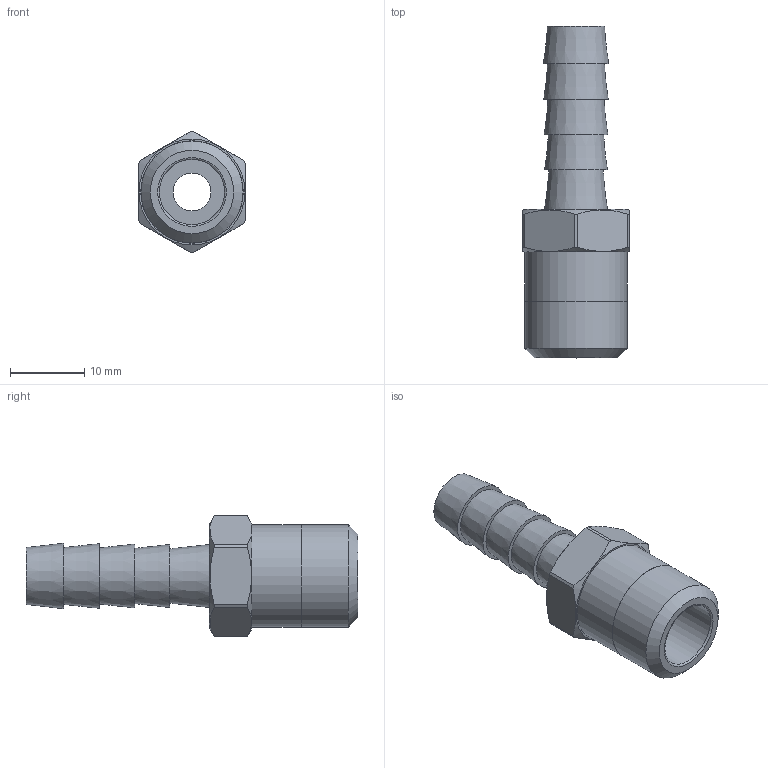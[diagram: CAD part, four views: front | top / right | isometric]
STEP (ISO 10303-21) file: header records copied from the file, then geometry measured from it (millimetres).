
FILE_DESCRIPTION(/* description */ (''),/* implementation_level */ '2;1');
FILE_NAME(/* name */ 'C:/Users/drich/Desktop/MB15-4 v2.step',/* time_stamp */ '2020-02-02T14:54:29-06:00',/* author */ (''),/* organization */ (''),/* preprocessor_version */ 'ST-DEVELOPER v18',/* originating_system */ 'Autodesk Translation Framework v8.12.0.6',/* authorisation */ '');
FILE_SCHEMA (('AUTOMOTIVE_DESIGN { 1 0 10303 214 3 1 1 }'));
Length unit declared in the file: inch
Products named in the file (2): MB15-4; 15 BARB ONLY
Assembly tree (1 placements, depth 2):
  MB15-4
    15 BARB ONLY
Bounding box: 14.27 x 44.58 x 16.26 mm (x, y, z)
Volume: 2766.3 mm3; surface area: 2797.7 mm2
Topology: 2 solids, 2 shells, 38 faces, 100 edges, 72 vertices
Faces by surface type: plane 16, cylinder 11, cone 10, torus 1
Full cylindrical faces by diameter (mm): 5.08 x1, 5.537 x1, 8.738 x1, 13.716 x1, 13.767 x1
Entity records: 1292 total; most frequent: CARTESIAN_POINT 237, DIRECTION 231, ORIENTED_EDGE 200, AXIS2_PLACEMENT_3D 102, EDGE_CURVE 100, VERTEX_POINT 72, CIRCLE 61, EDGE_LOOP 48
